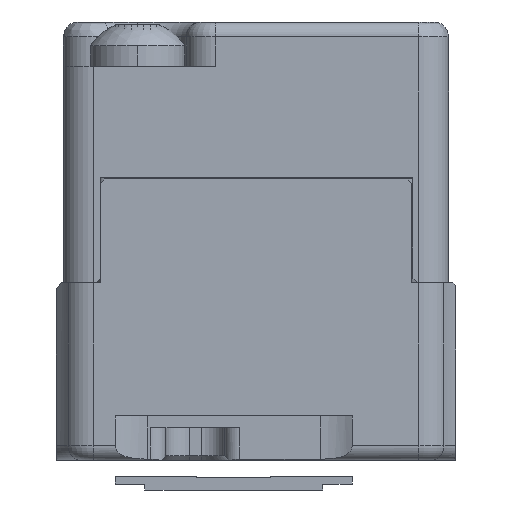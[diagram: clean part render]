
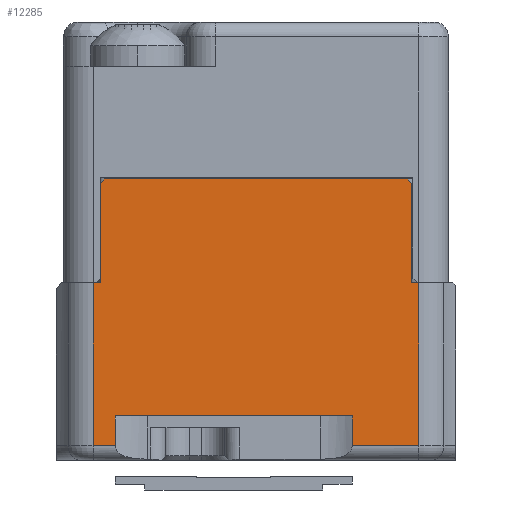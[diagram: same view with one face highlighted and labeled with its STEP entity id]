
A CAD part, left-side view. The second image highlights one B-rep face of the part: STEP entity #12285.
In plain terms, the highlighted planar face has unit normal (-1, 0, 0).
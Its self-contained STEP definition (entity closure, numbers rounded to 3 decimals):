
#691 = VERTEX_POINT ( 'NONE', #29405 ) ;
#772 = ORIENTED_EDGE ( 'NONE', *, *, #18824, .F. ) ;
#938 = DIRECTION ( 'NONE',  ( 0., -1., 0. ) ) ;
#980 = DIRECTION ( 'NONE',  ( 0., 1., 0. ) ) ;
#1156 = LINE ( 'NONE', #4587, #4078 ) ;
#1940 = VERTEX_POINT ( 'NONE', #41145 ) ;
#2211 = ORIENTED_EDGE ( 'NONE', *, *, #26113, .T. ) ;
#3036 = VERTEX_POINT ( 'NONE', #3172 ) ;
#3172 = CARTESIAN_POINT ( 'NONE',  ( 0., 1.25, 6. ) ) ;
#3690 = VERTEX_POINT ( 'NONE', #23845 ) ;
#3702 = LINE ( 'NONE', #18055, #43728 ) ;
#4078 = VECTOR ( 'NONE', #938, 1000. ) ;
#4378 = VECTOR ( 'NONE', #22867, 1000. ) ;
#4587 = CARTESIAN_POINT ( 'NONE',  ( 0., 13.5, 1.5 ) ) ;
#4698 = DIRECTION ( 'NONE',  ( 0., 1., 0. ) ) ;
#4907 = CARTESIAN_POINT ( 'NONE',  ( 0., 12.25, 6. ) ) ;
#5084 = EDGE_CURVE ( 'NONE', #23146, #20865, #15461, .T. ) ;
#5196 = FACE_OUTER_BOUND ( 'NONE', #22516, .T. ) ;
#5218 = VECTOR ( 'NONE', #25928, 1000. ) ;
#5440 = ORIENTED_EDGE ( 'NONE', *, *, #18274, .T. ) ;
#6133 = ORIENTED_EDGE ( 'NONE', *, *, #30194, .T. ) ;
#6310 = VERTEX_POINT ( 'NONE', #35387 ) ;
#7074 = EDGE_CURVE ( 'NONE', #21044, #25943, #24774, .T. ) ;
#8321 = CARTESIAN_POINT ( 'NONE',  ( 0., 13.5, 9.5 ) ) ;
#8670 = LINE ( 'NONE', #18948, #31341 ) ;
#8759 = CARTESIAN_POINT ( 'NONE',  ( 0., 1.575, 9.425 ) ) ;
#9163 = CARTESIAN_POINT ( 'NONE',  ( 0., 12.25, 0. ) ) ;
#9267 = ORIENTED_EDGE ( 'NONE', *, *, #13004, .T. ) ;
#9478 = CARTESIAN_POINT ( 'NONE',  ( 0., 13.5, 0. ) ) ;
#9661 = VECTOR ( 'NONE', #4698, 1000. ) ;
#10477 = CARTESIAN_POINT ( 'NONE',  ( 0., 11.5, 1.5 ) ) ;
#11021 = LINE ( 'NONE', #17650, #27313 ) ;
#11541 = LINE ( 'NONE', #21577, #38434 ) ;
#11558 = LINE ( 'NONE', #28481, #32702 ) ;
#11944 = AXIS2_PLACEMENT_3D ( 'NONE', #9478, #44179, #23380 ) ;
#12181 = LINE ( 'NONE', #8759, #14821 ) ;
#12285 = ADVANCED_FACE ( 'NONE', ( #5196 ), #26130, .T. ) ;
#13004 = EDGE_CURVE ( 'NONE', #27626, #22748, #1156, .T. ) ;
#13457 = VERTEX_POINT ( 'NONE', #33863 ) ;
#13739 = CARTESIAN_POINT ( 'NONE',  ( 0., 1.25, 0.5 ) ) ;
#14762 = CARTESIAN_POINT ( 'NONE',  ( 0., 11.925, 9.425 ) ) ;
#14791 = CARTESIAN_POINT ( 'NONE',  ( 0., 3.5, 1.5 ) ) ;
#14821 = VECTOR ( 'NONE', #26090, 1000. ) ;
#15461 = LINE ( 'NONE', #39439, #24190 ) ;
#15520 = EDGE_CURVE ( 'NONE', #3036, #6310, #15885, .T. ) ;
#15885 = LINE ( 'NONE', #36913, #5218 ) ;
#16905 = ORIENTED_EDGE ( 'NONE', *, *, #7074, .F. ) ;
#16982 = LINE ( 'NONE', #44595, #33496 ) ;
#17420 = EDGE_CURVE ( 'NONE', #18642, #27626, #11021, .T. ) ;
#17650 = CARTESIAN_POINT ( 'NONE',  ( 0., 11.5, 0. ) ) ;
#17831 = ORIENTED_EDGE ( 'NONE', *, *, #22285, .T. ) ;
#18055 = CARTESIAN_POINT ( 'NONE',  ( 0., 12., 0. ) ) ;
#18203 = DIRECTION ( 'NONE',  ( 0., 1., 0. ) ) ;
#18274 = EDGE_CURVE ( 'NONE', #6310, #691, #43373, .T. ) ;
#18642 = VERTEX_POINT ( 'NONE', #23920 ) ;
#18824 = EDGE_CURVE ( 'NONE', #18642, #1940, #16982, .T. ) ;
#18948 = CARTESIAN_POINT ( 'NONE',  ( 0., 13.5, 6. ) ) ;
#19151 = CARTESIAN_POINT ( 'NONE',  ( 0., 1.5, 0. ) ) ;
#19394 = CARTESIAN_POINT ( 'NONE',  ( 0., 12., 9.35 ) ) ;
#20865 = VERTEX_POINT ( 'NONE', #35409 ) ;
#21044 = VERTEX_POINT ( 'NONE', #19394 ) ;
#21577 = CARTESIAN_POINT ( 'NONE',  ( 0., 3.5, 0. ) ) ;
#22285 = EDGE_CURVE ( 'NONE', #3690, #25943, #42374, .T. ) ;
#22338 = EDGE_CURVE ( 'NONE', #3690, #691, #12181, .T. ) ;
#22516 = EDGE_LOOP ( 'NONE', ( #28723, #9267, #2211, #31632, #25004, #24920, #5440, #38617, #17831, #16905, #28576, #6133, #28141, #772 ) ) ;
#22748 = VERTEX_POINT ( 'NONE', #14791 ) ;
#22867 = DIRECTION ( 'NONE',  ( 0., 0., -1. ) ) ;
#23146 = VERTEX_POINT ( 'NONE', #13739 ) ;
#23380 = DIRECTION ( 'NONE',  ( 0., 0., 1. ) ) ;
#23430 = CARTESIAN_POINT ( 'NONE',  ( 0., 11.85, 9.5 ) ) ;
#23715 = VECTOR ( 'NONE', #43587, 1000. ) ;
#23845 = CARTESIAN_POINT ( 'NONE',  ( 0., 1.65, 9.5 ) ) ;
#23920 = CARTESIAN_POINT ( 'NONE',  ( 0., 11.5, 0.5 ) ) ;
#24190 = VECTOR ( 'NONE', #18203, 1000. ) ;
#24774 = LINE ( 'NONE', #14762, #39934 ) ;
#24920 = ORIENTED_EDGE ( 'NONE', *, *, #15520, .T. ) ;
#25004 = ORIENTED_EDGE ( 'NONE', *, *, #34234, .T. ) ;
#25206 = DIRECTION ( 'NONE',  ( 0., 0., -1. ) ) ;
#25928 = DIRECTION ( 'NONE',  ( 0., 1., 0. ) ) ;
#25943 = VERTEX_POINT ( 'NONE', #23430 ) ;
#26090 = DIRECTION ( 'NONE',  ( 0., -0.707, -0.707 ) ) ;
#26113 = EDGE_CURVE ( 'NONE', #22748, #20865, #11541, .T. ) ;
#26130 = PLANE ( 'NONE',  #11944 ) ;
#27223 = VERTEX_POINT ( 'NONE', #4907 ) ;
#27313 = VECTOR ( 'NONE', #32504, 1000. ) ;
#27494 = DIRECTION ( 'NONE',  ( 0., 1., 0. ) ) ;
#27626 = VERTEX_POINT ( 'NONE', #10477 ) ;
#27893 = DIRECTION ( 'NONE',  ( 0., 0., -1. ) ) ;
#28141 = ORIENTED_EDGE ( 'NONE', *, *, #30044, .T. ) ;
#28481 = CARTESIAN_POINT ( 'NONE',  ( 0., 1.25, 0. ) ) ;
#28576 = ORIENTED_EDGE ( 'NONE', *, *, #30120, .T. ) ;
#28723 = ORIENTED_EDGE ( 'NONE', *, *, #17420, .T. ) ;
#29162 = DIRECTION ( 'NONE',  ( 0., 0., 1. ) ) ;
#29405 = CARTESIAN_POINT ( 'NONE',  ( 0., 1.5, 9.35 ) ) ;
#30044 = EDGE_CURVE ( 'NONE', #27223, #1940, #34295, .T. ) ;
#30120 = EDGE_CURVE ( 'NONE', #21044, #13457, #3702, .T. ) ;
#30194 = EDGE_CURVE ( 'NONE', #13457, #27223, #8670, .T. ) ;
#31341 = VECTOR ( 'NONE', #980, 1000. ) ;
#31632 = ORIENTED_EDGE ( 'NONE', *, *, #5084, .F. ) ;
#31644 = DIRECTION ( 'NONE',  ( 0., -0.707, 0.707 ) ) ;
#32504 = DIRECTION ( 'NONE',  ( 0., 0., 1. ) ) ;
#32702 = VECTOR ( 'NONE', #29162, 1000. ) ;
#33496 = VECTOR ( 'NONE', #27494, 1000. ) ;
#33863 = CARTESIAN_POINT ( 'NONE',  ( 0., 12., 6. ) ) ;
#34234 = EDGE_CURVE ( 'NONE', #23146, #3036, #11558, .T. ) ;
#34295 = LINE ( 'NONE', #9163, #4378 ) ;
#35387 = CARTESIAN_POINT ( 'NONE',  ( 0., 1.5, 6. ) ) ;
#35409 = CARTESIAN_POINT ( 'NONE',  ( 0., 3.5, 0.5 ) ) ;
#36913 = CARTESIAN_POINT ( 'NONE',  ( 0., 13.5, 6. ) ) ;
#38434 = VECTOR ( 'NONE', #25206, 1000. ) ;
#38617 = ORIENTED_EDGE ( 'NONE', *, *, #22338, .F. ) ;
#39439 = CARTESIAN_POINT ( 'NONE',  ( 0., 31.099, 0.5 ) ) ;
#39934 = VECTOR ( 'NONE', #31644, 1000. ) ;
#41145 = CARTESIAN_POINT ( 'NONE',  ( 0., 12.25, 0.5 ) ) ;
#42374 = LINE ( 'NONE', #8321, #9661 ) ;
#43373 = LINE ( 'NONE', #19151, #23715 ) ;
#43587 = DIRECTION ( 'NONE',  ( 0., 0., 1. ) ) ;
#43728 = VECTOR ( 'NONE', #27893, 1000. ) ;
#44179 = DIRECTION ( 'NONE',  ( -1., 0., 0. ) ) ;
#44595 = CARTESIAN_POINT ( 'NONE',  ( 0., 12.282, 0.5 ) ) ;
